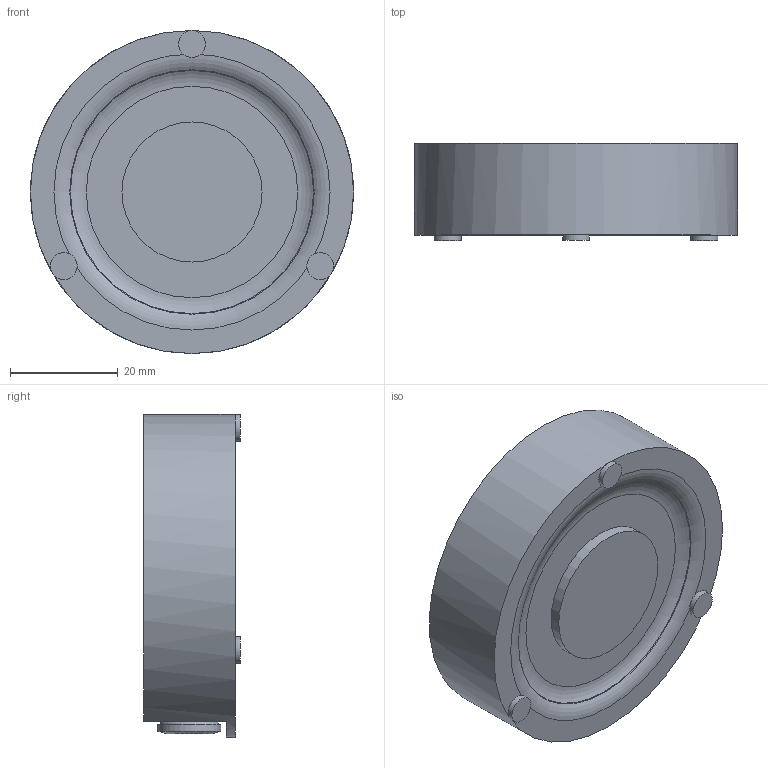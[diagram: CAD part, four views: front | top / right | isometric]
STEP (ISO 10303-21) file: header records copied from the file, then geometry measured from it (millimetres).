
FILE_DESCRIPTION(/* description */ ('STEP AP203'),/* implementation_level */ '2;1');
FILE_NAME(/* name */ 'E:\产品三维\真空\真空产生\ZNC60N\STEP文档\ZNC60N.stp',/* time_stamp */ '2023-01-17T15:21:40+08:00',/* author */ ('honno'),/* organization */ (''),/* preprocessor_version */ 'ST-DEVELOPER v18',/* originating_system */ 'Autodesk Inventor 2020',/* authorisation */ '');
FILE_SCHEMA (('AUTOMOTIVE_DESIGN { 1 0 10303 214 3 1 1 }'));
Length unit declared in the file: millimetre
Products named in the file (3): ZNC60N; ZNC60N_1; dutou
Assembly tree (2 placements, depth 2):
  ZNC60N
    ZNC60N_1
    dutou
Bounding box: 60 x 18 x 60 mm (x, y, z)
Volume: 44099.7 mm3; surface area: 12378.1 mm2
Topology: 7 solids, 7 shells, 210 faces, 605 edges, 417 vertices
Faces by surface type: cylinder 146, plane 36, bspline 14, cone 11, torus 3
Full cylindrical faces by diameter (mm): 3.242 x52, 4 x52, 5 x3, 8.566 x12, 9.728 x5, 11.7 x1, 26 x1, 60 x1
Entity records: 21218 total; most frequent: CARTESIAN_POINT 16324, ORIENTED_EDGE 1210, DIRECTION 758, EDGE_CURVE 605, VERTEX_POINT 417, AXIS2_PLACEMENT_3D 287, EDGE_LOOP 220, FACE_OUTER_BOUND 210
